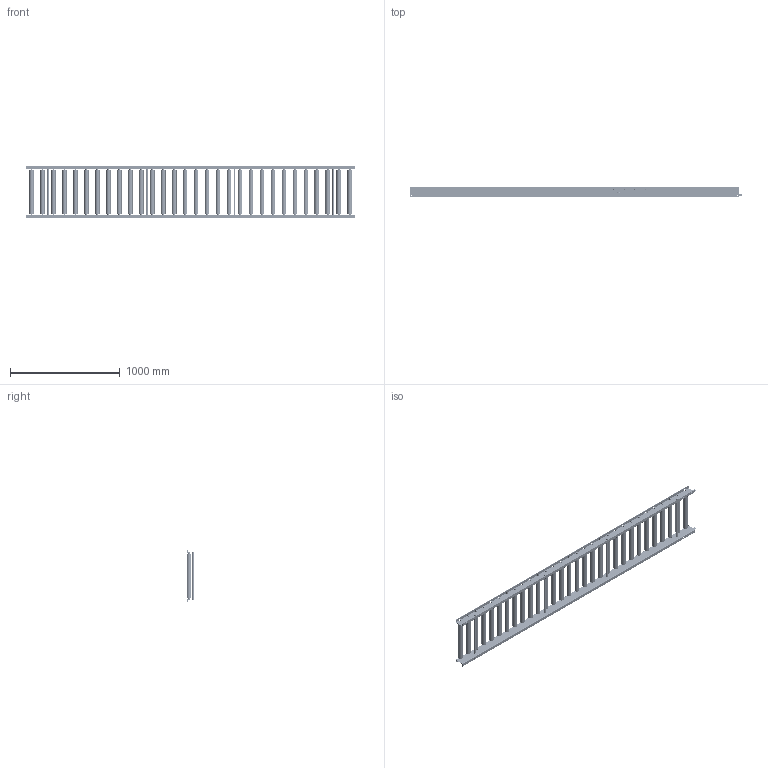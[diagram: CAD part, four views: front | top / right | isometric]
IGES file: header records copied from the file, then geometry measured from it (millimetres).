
Start section: SolidWorks IGES file using analytic representation for surfaces
Global section: file name: C:\Users\0656\Desktop\変換ツール\iges変換\RH-4214P.igs; native system: SolidWorks 2023; preprocessor: SolidWorks 2023; author: 0656; date: 240226.163012; units: millimetre
Bounding box: 3025 x 97.35 x 475 mm (x, y, z)
Surface area: 5047978.7 mm2 (no closed solid volume)
Topology: 0 solids, 0 shells, 3020 faces, 43968 edges, 43368 vertices
Faces by surface type: bspline 1960, revolution 1060
